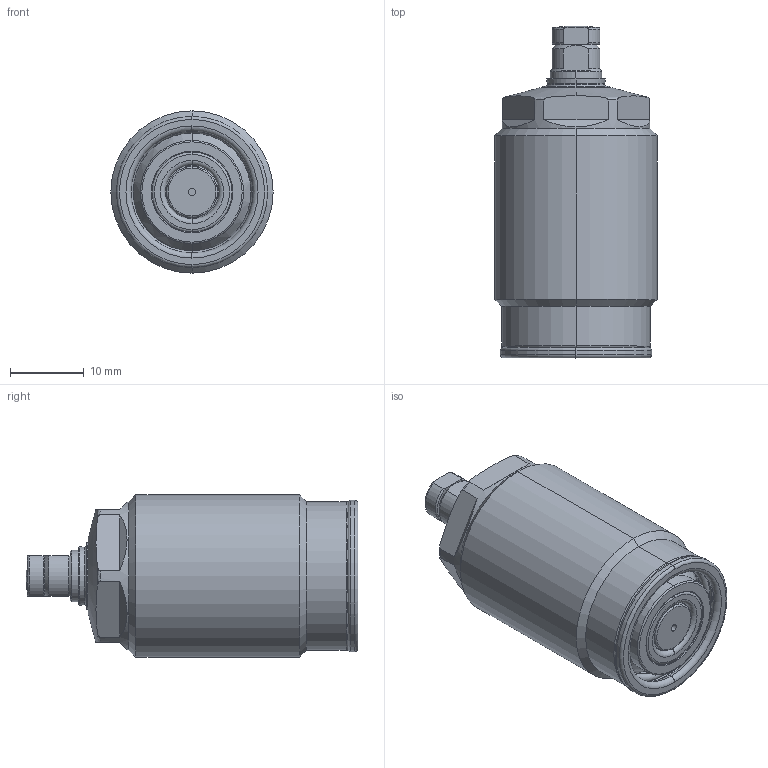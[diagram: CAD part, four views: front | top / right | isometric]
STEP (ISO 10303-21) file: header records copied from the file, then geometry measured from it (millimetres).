
FILE_DESCRIPTION(/* description */ (''),/* implementation_level */ '2;1');
FILE_NAME(/* name */ 'TSC22-S.stp',/* time_stamp */ '2024-01-24T13:20:12+08:00',/* author */ (''),/* organization */ (''),/* preprocessor_version */ 'ST-DEVELOPER v16.7',/* originating_system */ 'SIEMENS PLM Software NX 12.0',/* authorisation */ '');
FILE_SCHEMA (('AP203_CONFIGURATION_CONTROLLED_3D_DESIGN_OF_MECHANICAL_PARTS_AND_ASSEMBLIES_MIM_LF { 1 0 10303 403 2 1 2}'));
Length unit declared in the file: millimetre
Products named in the file (7): XLD-M4_Oring; XLD-M4_contactbolt; TSC22-S-04; TSC22-S-03; TSC22-S-02; TSC22-S-01; LD0223-x-S_step
Assembly tree (6 placements, depth 3):
  LD0223-x-S_step
    TSC22-S-01
      XLD-M4_contactbolt
      XLD-M4_Oring
    TSC22-S-02
    TSC22-S-03
    TSC22-S-04
Bounding box: 22 x 45 x 22 mm (x, y, z)
Volume: 12787 mm3; surface area: 4571.5 mm2
Topology: 5 solids, 5 shells, 177 faces, 384 edges, 227 vertices
Faces by surface type: torus 64, cylinder 44, plane 37, cone 30, sphere 2
Entity records: 5954 total; most frequent: CARTESIAN_POINT 1203, DIRECTION 948, ORIENTED_EDGE 768, AXIS2_PLACEMENT_3D 424, EDGE_CURVE 384, CIRCLE 240, VERTEX_POINT 227, EDGE_LOOP 191
